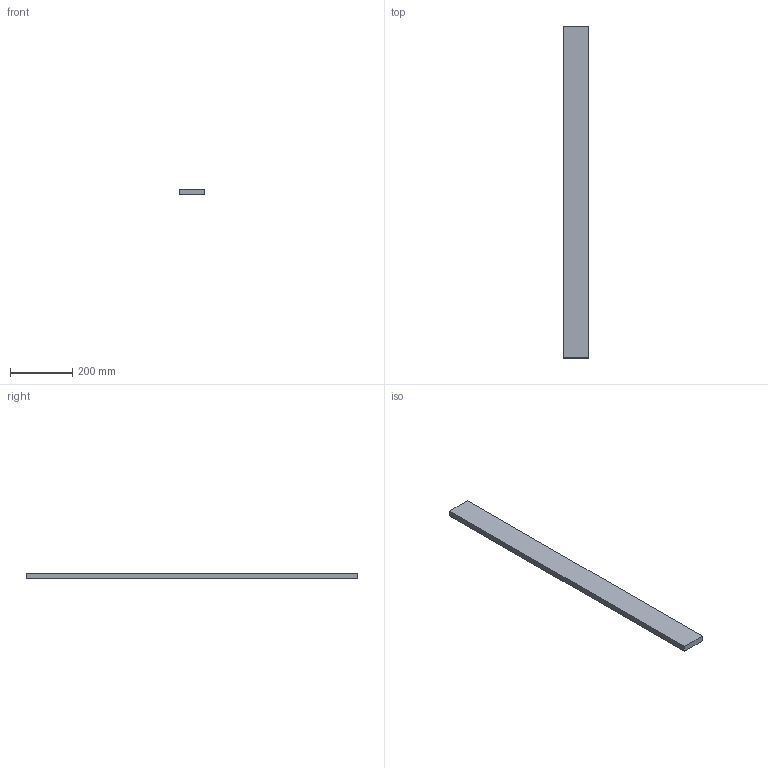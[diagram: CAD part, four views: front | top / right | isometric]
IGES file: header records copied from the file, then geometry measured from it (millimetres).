
Start section:  PTC IGES file: C:\Documents and Settings\Brad\Desktop\LABsub_CAD\center _spacer.igs
Global section: file name: C:\Documents and Settings\Brad\Desktop\LABsub_CAD\center_spacer.igs; native system: Brad by Parametric Technology Corporation; preprocessor: 2003250; author: Unknown; organization: PTC; date: 040522.160822; units: inch
Bounding box: 81.71 x 1066.8 x 19.05 mm (x, y, z)
Volume: 1660591.3 mm3; surface area: 218098.6 mm2
Topology: 1 solids, 1 shells, 6 faces, 12 edges, 8 vertices
Faces by surface type: bspline 6
